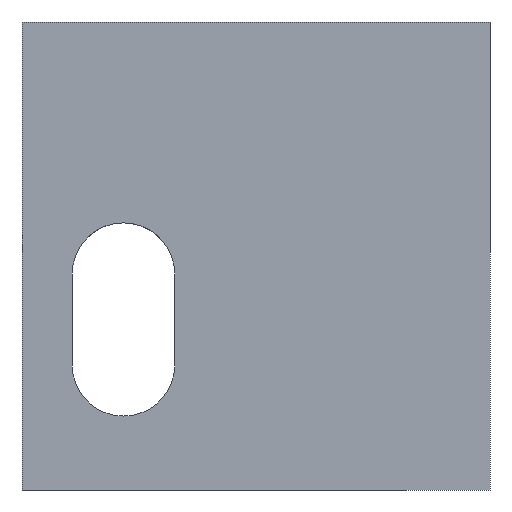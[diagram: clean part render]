
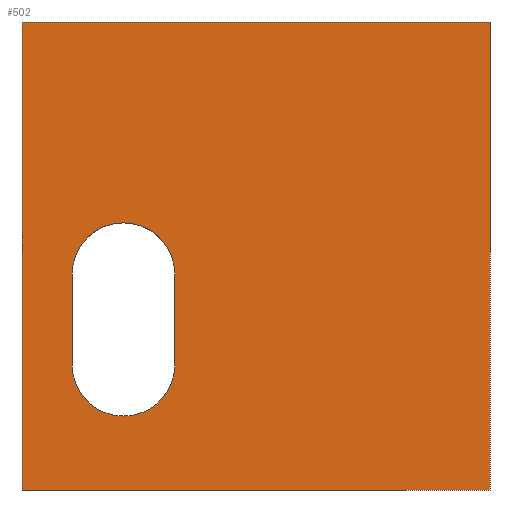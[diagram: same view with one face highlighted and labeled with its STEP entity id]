
A CAD part, front view. The second image highlights one B-rep face of the part: STEP entity #502.
In plain terms, the highlighted planar face has unit normal (0, -1, 0).
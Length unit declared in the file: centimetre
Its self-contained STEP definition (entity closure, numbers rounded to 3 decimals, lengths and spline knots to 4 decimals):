
#4 = DIRECTION ( 'NONE',  ( 0., 0., 1. ) ) ;
#21 = CARTESIAN_POINT ( 'NONE',  ( 326.2805, 0., 461.3724 ) ) ;
#28 = DIRECTION ( 'NONE',  ( 0., 0., -1. ) ) ;
#32 = DIRECTION ( 'NONE',  ( 0., 0., 1. ) ) ;
#48 = EDGE_CURVE ( 'NONE', #86, #1181, #350, .T. ) ;
#53 = VERTEX_POINT ( 'NONE', #290 ) ;
#64 = CARTESIAN_POINT ( 'NONE',  ( 1000., 0., 1000. ) ) ;
#82 = AXIS2_PLACEMENT_3D ( 'NONE', #164, #962, #1148 ) ;
#86 = VERTEX_POINT ( 'NONE', #202 ) ;
#91 = PLANE ( 'NONE',  #679 ) ;
#92 = VERTEX_POINT ( 'NONE', #217 ) ;
#164 = CARTESIAN_POINT ( 'NONE',  ( 216.7757, 0., 267.4687 ) ) ;
#167 = EDGE_CURVE ( 'NONE', #1181, #1098, #1047, .T. ) ;
#170 = ORIENTED_EDGE ( 'NONE', *, *, #48, .F. ) ;
#177 = VECTOR ( 'NONE', #28, 100. ) ;
#198 = EDGE_LOOP ( 'NONE', ( #748, #170, #481, #870, #1115 ) ) ;
#202 = CARTESIAN_POINT ( 'NONE',  ( 216.7757, 0., 157.9639 ) ) ;
#209 = CARTESIAN_POINT ( 'NONE',  ( 0., 0., 0. ) ) ;
#214 = DIRECTION ( 'NONE',  ( 1., 0., 0. ) ) ;
#217 = CARTESIAN_POINT ( 'NONE',  ( 0., 0., 0. ) ) ;
#233 = EDGE_CURVE ( 'NONE', #570, #86, #1121, .T. ) ;
#270 = DIRECTION ( 'NONE',  ( 1., 0., 0. ) ) ;
#275 = CARTESIAN_POINT ( 'NONE',  ( 216.7757, 0., 267.4687 ) ) ;
#280 = DIRECTION ( 'NONE',  ( 0., 0., 1. ) ) ;
#283 = ORIENTED_EDGE ( 'NONE', *, *, #1071, .F. ) ;
#287 = CARTESIAN_POINT ( 'NONE',  ( 0., 0., 1000. ) ) ;
#290 = CARTESIAN_POINT ( 'NONE',  ( 0., 0., 1000. ) ) ;
#306 = VERTEX_POINT ( 'NONE', #64 ) ;
#308 = ORIENTED_EDGE ( 'NONE', *, *, #888, .F. ) ;
#314 = CARTESIAN_POINT ( 'NONE',  ( 107.2708, 0., 267.4687 ) ) ;
#324 = DIRECTION ( 'NONE',  ( 0., 0., -1. ) ) ;
#336 = DIRECTION ( 'NONE',  ( 0., 0., -1. ) ) ;
#350 = CIRCLE ( 'NONE', #488, 109.5049 ) ;
#351 = EDGE_CURVE ( 'NONE', #53, #92, #690, .T. ) ;
#363 = CARTESIAN_POINT ( 'NONE',  ( 107.2708, 0., 461.3724 ) ) ;
#377 = DIRECTION ( 'NONE',  ( 0., 1., 0. ) ) ;
#389 = VECTOR ( 'NONE', #214, 100. ) ;
#405 = VERTEX_POINT ( 'NONE', #363 ) ;
#452 = VERTEX_POINT ( 'NONE', #654 ) ;
#456 = FACE_BOUND ( 'NONE', #198, .T. ) ;
#481 = ORIENTED_EDGE ( 'NONE', *, *, #233, .F. ) ;
#488 = AXIS2_PLACEMENT_3D ( 'NONE', #275, #639, #4 ) ;
#502 = ADVANCED_FACE ( 'NONE', ( #456, #1113 ), #91, .F. ) ;
#509 = VECTOR ( 'NONE', #324, 100. ) ;
#570 = VERTEX_POINT ( 'NONE', #823 ) ;
#609 = EDGE_LOOP ( 'NONE', ( #706, #283, #308, #1134 ) ) ;
#621 = VECTOR ( 'NONE', #32, 100. ) ;
#639 = DIRECTION ( 'NONE',  ( 0., -1., 0. ) ) ;
#652 = EDGE_CURVE ( 'NONE', #405, #570, #1147, .T. ) ;
#654 = CARTESIAN_POINT ( 'NONE',  ( 1000., 0., 0. ) ) ;
#679 = AXIS2_PLACEMENT_3D ( 'NONE', #1186, #377, #280 ) ;
#684 = DIRECTION ( 'NONE',  ( 0., -1., 0. ) ) ;
#689 = EDGE_CURVE ( 'NONE', #1098, #405, #777, .T. ) ;
#690 = LINE ( 'NONE', #1056, #903 ) ;
#706 = ORIENTED_EDGE ( 'NONE', *, *, #1034, .T. ) ;
#748 = ORIENTED_EDGE ( 'NONE', *, *, #167, .F. ) ;
#752 = LINE ( 'NONE', #842, #177 ) ;
#771 = CARTESIAN_POINT ( 'NONE',  ( 326.2805, 0., 267.4687 ) ) ;
#777 = CIRCLE ( 'NONE', #832, 109.5049 ) ;
#823 = CARTESIAN_POINT ( 'NONE',  ( 107.2708, 0., 267.4687 ) ) ;
#832 = AXIS2_PLACEMENT_3D ( 'NONE', #959, #684, #1131 ) ;
#842 = CARTESIAN_POINT ( 'NONE',  ( 1000., 0., 1000. ) ) ;
#870 = ORIENTED_EDGE ( 'NONE', *, *, #652, .F. ) ;
#888 = EDGE_CURVE ( 'NONE', #53, #306, #1092, .T. ) ;
#903 = VECTOR ( 'NONE', #336, 100. ) ;
#936 = LINE ( 'NONE', #209, #389 ) ;
#959 = CARTESIAN_POINT ( 'NONE',  ( 216.7757, 0., 461.3724 ) ) ;
#962 = DIRECTION ( 'NONE',  ( 0., -1., 0. ) ) ;
#1034 = EDGE_CURVE ( 'NONE', #92, #452, #936, .T. ) ;
#1039 = CARTESIAN_POINT ( 'NONE',  ( 326.2805, 0., 461.3724 ) ) ;
#1047 = LINE ( 'NONE', #1039, #621 ) ;
#1056 = CARTESIAN_POINT ( 'NONE',  ( 0., 0., 1000. ) ) ;
#1071 = EDGE_CURVE ( 'NONE', #306, #452, #752, .T. ) ;
#1092 = LINE ( 'NONE', #287, #1158 ) ;
#1098 = VERTEX_POINT ( 'NONE', #21 ) ;
#1113 = FACE_OUTER_BOUND ( 'NONE', #609, .T. ) ;
#1115 = ORIENTED_EDGE ( 'NONE', *, *, #689, .F. ) ;
#1121 = CIRCLE ( 'NONE', #82, 109.5049 ) ;
#1131 = DIRECTION ( 'NONE',  ( 0., 0., 1. ) ) ;
#1134 = ORIENTED_EDGE ( 'NONE', *, *, #351, .T. ) ;
#1147 = LINE ( 'NONE', #314, #509 ) ;
#1148 = DIRECTION ( 'NONE',  ( 0., 0., 1. ) ) ;
#1158 = VECTOR ( 'NONE', #270, 100. ) ;
#1181 = VERTEX_POINT ( 'NONE', #771 ) ;
#1186 = CARTESIAN_POINT ( 'NONE',  ( 0., 0., 1000. ) ) ;
